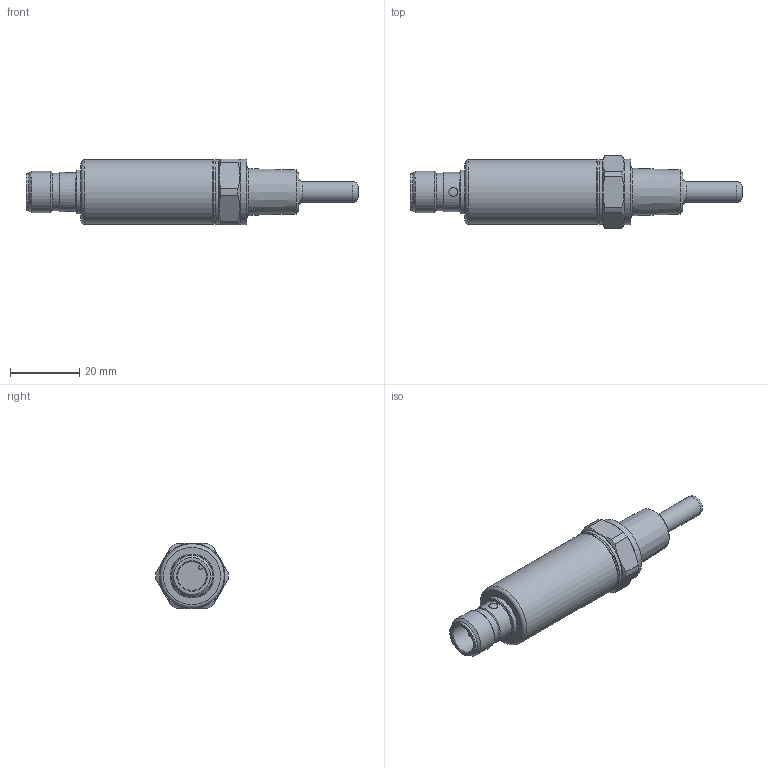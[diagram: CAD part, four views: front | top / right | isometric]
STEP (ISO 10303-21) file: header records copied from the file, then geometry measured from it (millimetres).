
FILE_DESCRIPTION( ( 'STEP AP203' ), ' ' );
FILE_NAME( 'p:/temp/worker_331/2036_4012/app_66_02015121814503077304938192d056f_000000_00_00_000000/format_2/TA2603_p1.stp', '2015-12-18T13:50:31', ( '' ), ( '' ), ' ', 'PARTsolutions', ' ' );
FILE_SCHEMA( ( 'CONFIG_CONTROL_DESIGN' ) );
Length unit declared in the file: millimetre
Products named in the file (1): _TA2603_p1
Bounding box: 96 x 20.99 x 19 mm (x, y, z)
Volume: 16993.6 mm3; surface area: 5110.3 mm2
Topology: 1 solids, 1 shells, 67 faces, 146 edges, 89 vertices
Faces by surface type: cylinder 22, cone 19, plane 18, torus 8
Full cylindrical faces by diameter (mm): 2.5 x2, 6 x1, 8.4 x1, 10.6 x1, 10.8 x1, 11.3 x1, 12 x1, 12.7 x1, 18.58 x1, 18.75 x2, 18.9 x1
Entity records: 1930 total; most frequent: CARTESIAN_POINT 574, DIRECTION 276, ORIENTED_EDGE 228, AXIS2_PLACEMENT_3D 128, EDGE_CURVE 114, EDGE_LOOP 104, FACE_OUTER_BOUND 88, VERTEX_POINT 86
